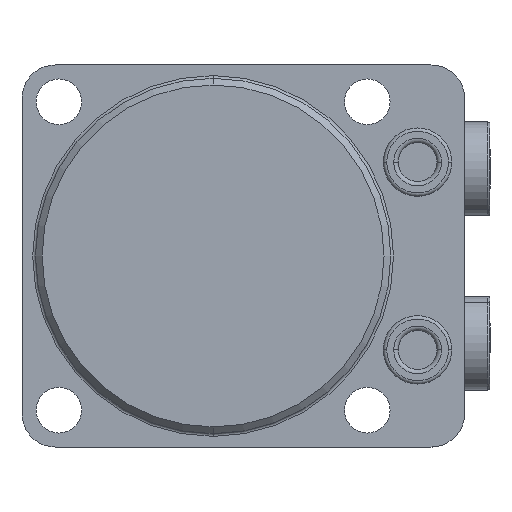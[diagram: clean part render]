
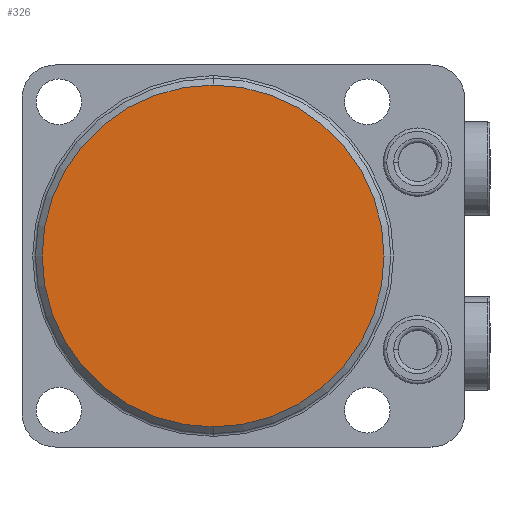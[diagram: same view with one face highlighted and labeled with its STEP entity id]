
A CAD part, front view. The second image highlights one B-rep face of the part: STEP entity #326.
In plain terms, the highlighted planar face has unit normal (0, -1, 0) as drawn and (0, 1, 0) by its records, which use the part's own axes.
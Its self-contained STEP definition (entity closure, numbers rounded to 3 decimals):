
#173=PLANE('',#2676);
#326=ADVANCED_FACE('',(#532),#173,.T.);
#532=FACE_OUTER_BOUND('',#677,.F.);
#677=EDGE_LOOP('',(#1223,#1224));
#875=CIRCLE('',#2640,25.5);
#897=CIRCLE('',#2675,25.5);
#1223=ORIENTED_EDGE('',*,*,#2083,.T.);
#1224=ORIENTED_EDGE('',*,*,#2022,.T.);
#1773=VERTEX_POINT('',#3956);
#1774=VERTEX_POINT('',#3957);
#2022=EDGE_CURVE('',#1773,#1774,#875,.T.);
#2083=EDGE_CURVE('',#1774,#1773,#897,.T.);
#2640=AXIS2_PLACEMENT_3D('',#3955,#3127,#3128);
#2675=AXIS2_PLACEMENT_3D('',#4085,#3231,#3232);
#2676=AXIS2_PLACEMENT_3D('',#4086,#3233,#3234);
#3127=DIRECTION('',(0.,-1.,0.));
#3128=DIRECTION('',(0.,0.,1.));
#3231=DIRECTION('',(0.,-1.,0.));
#3232=DIRECTION('',(0.,0.,1.));
#3233=DIRECTION('',(0.,1.,0.));
#3234=DIRECTION('',(0.,0.,1.));
#3955=CARTESIAN_POINT('',(0.,0.,0.));
#3956=CARTESIAN_POINT('',(0.,0.,-25.5));
#3957=CARTESIAN_POINT('',(0.,0.,25.5));
#4085=CARTESIAN_POINT('',(0.,0.,0.));
#4086=CARTESIAN_POINT('',(-28.5,0.,28.5));
